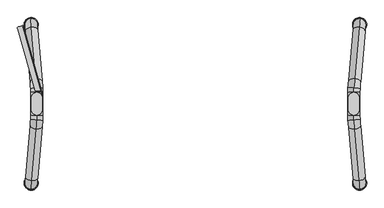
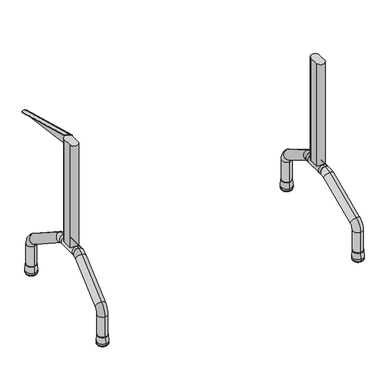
"""IFC4 building model written with IfcOpenShell, lengths in millimetres: furniture geometry, Mesa para refeitório : Mesa para refeitório 120x60cm cód 70469.6."""

from ifc_helpers import new_model, si_unit, point, frame, frame_2d, origin, place, context, project, spatial, polyline, circle_curve, ellipse_curve, trimmed, segment, composite_curve, outline, extrude, source, transform, mapped, element, save
from ifc_brep_helpers import plane_surface, cylinder_surface, revolved_surface, extruded_surface, advanced_brep


def furniture_bdeea453(model_context):
    return source(origin(), model_context, "Body", "SolidModel", [
        advanced_brep(
        [(-519.4401581, 37.5, 255.0), (-519.4401581, -37.5, 255.0), (-519.4401581, -37.5, 295.0), (-519.4401581, 37.5, 295.0), (-520.0583573, -51.7441422, 295.0), (-520.0583573, -51.7441422, 255.0), (-520.0583573, 51.7441422, 295.0), (-520.0583573, 51.7441422, 255.0)],
        [
            (0, 1),
            (1, 2, ellipse_curve(frame((-519.4401581, -37.5, 275.0), z_axis=(0.0, 1.0, 0.0), x_axis=(0.0, 0.0, -1.0)), 20.0, 19.923894)),
            (2, 3),
            (3, 0, ellipse_curve(frame((-519.4401581, 37.5, 275.0), z_axis=(0.0, -1.0, 0.0), x_axis=(0.0, 0.0, -1.0)), 20.0, 19.923894)),
            (2, 1, ellipse_curve(frame((-519.4401581, -37.5, 275.0), z_axis=(0.0, 1.0, 0.0), x_axis=(0.0, 0.0, -1.0)), 20.0, 19.923894)),
            (0, 3, ellipse_curve(frame((-519.4401581, 37.5, 275.0), z_axis=(0.0, -1.0, 0.0), x_axis=(0.0, 0.0, -1.0)), 20.0, 19.923894)),
            (4, 5, ellipse_curve(frame((-520.0583573, -51.7441422, 275.0), z_axis=(-0.08663729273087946, -0.9962399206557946, 0.0), x_axis=(0.0, 0.0, -1.0)), 20.0, 19.923894)),
            (5, 4, ellipse_curve(frame((-520.0583573, -51.7441422, 275.0), z_axis=(-0.08663729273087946, -0.9962399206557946, 0.0), x_axis=(0.0, 0.0, -1.0)), 20.0, 19.923894)),
            (4, 2, circle_curve(frame((-683.8513695, -37.5, 295.0), z_axis=(0.0, 0.0, 1.0), x_axis=(1.0, 0.0, 0.0)), 164.4112114)),
            (1, 5, circle_curve(frame((-683.8513695, -37.5, 255.0), z_axis=(0.0, 0.0, -1.0), x_axis=(1.0, 0.0, 0.0)), 164.4112114)),
            (6, 7, ellipse_curve(frame((-520.0583573, 51.7441422, 275.0), z_axis=(-0.08663729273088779, 0.9962399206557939, 0.0), x_axis=(0.0, 0.0, -1.0)), 20.0, 19.923894)),
            (7, 6, ellipse_curve(frame((-520.0583573, 51.7441422, 275.0), z_axis=(-0.08663729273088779, 0.9962399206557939, 0.0), x_axis=(0.0, 0.0, -1.0)), 20.0, 19.923894)),
            (3, 6, circle_curve(frame((-683.8513695, 37.5, 295.0), z_axis=(0.0, 0.0, 1.0), x_axis=(0.996239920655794, 0.08663729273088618, 0.0)), 164.4112114)),
            (7, 0, circle_curve(frame((-683.8513695, 37.5, 255.0), z_axis=(0.0, 0.0, -1.0), x_axis=(0.996239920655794, 0.08663729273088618, 0.0)), 164.4112114)),
        ],
        [
            extruded_surface(trimmed(ellipse_curve(frame((-519.4401581, 37.5, 275.0), z_axis=(0.0, -1.0, 0.0), x_axis=(0.0, 0.0, -1.0)), 20.0, 19.923894), [point((-519.4401581, 37.5, 295.0))], [point((-519.4401581, 37.5, 255.0))], True, "CARTESIAN"), (0.0, -75.0, 0.0), 75.0),
            extruded_surface(trimmed(ellipse_curve(frame((-519.4401581, 37.5, 275.0), z_axis=(0.0, -1.0, 0.0), x_axis=(0.0, 0.0, -1.0)), 20.0, 19.923894), [point((-519.4401581, 37.5, 255.0))], [point((-519.4401581, 37.5, 295.0))], True, "CARTESIAN"), (0.0, -75.0, 0.0), 75.0),
            plane_surface(frame((-520.0583573, -51.7441422, 0.0), z_axis=(-0.08663729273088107, -0.9962399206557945, 0.0), x_axis=(0.0, 0.0, 1.0))),
            revolved_surface(trimmed(ellipse_curve(frame((-519.4401581, -37.5, 275.0), z_axis=(0.0, -1.0, 0.0), x_axis=(0.0, 0.0, -1.0)), 20.0, 19.923894), [point((-519.4401581, -37.5, 295.0))], [point((-519.4401581, -37.5, 255.0))], True, "CARTESIAN"), (-683.8513695, -37.5, 0.0), (0.0, 0.0, 1.0)),
            revolved_surface(trimmed(ellipse_curve(frame((-519.4401581, -37.5, 275.0), z_axis=(0.0, -1.0, 0.0), x_axis=(0.0, 0.0, -1.0)), 20.0, 19.923894), [point((-519.4401581, -37.5, 255.0))], [point((-519.4401581, -37.5, 295.0))], True, "CARTESIAN"), (-683.8513695, -37.5, 0.0), (0.0, 0.0, 1.0)),
            plane_surface(frame((-520.0583573, 51.7441422, 0.0), z_axis=(-0.08663729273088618, 0.996239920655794, 0.0), x_axis=(0.0, 0.0, 1.0))),
            revolved_surface(trimmed(ellipse_curve(frame((-520.0583573, 51.7441422, 275.0), z_axis=(0.08663729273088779, -0.9962399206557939, 0.0), x_axis=(0.0, 0.0, -1.0)), 20.0, 19.923894), [point((-520.0583573, 51.7441422, 295.0))], [point((-520.0583573, 51.7441422, 255.0))], True, "CARTESIAN"), (-683.8513695, 37.5, 0.0), (0.0, 0.0, 1.0)),
            revolved_surface(trimmed(ellipse_curve(frame((-520.0583573, 51.7441422, 275.0), z_axis=(0.08663729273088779, -0.9962399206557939, 0.0), x_axis=(0.0, 0.0, -1.0)), 20.0, 19.923894), [point((-520.0583573, 51.7441422, 255.0))], [point((-520.0583573, 51.7441422, 295.0))], True, "CARTESIAN"), (-683.8513695, 37.5, 0.0), (0.0, 0.0, 1.0)),
        ],
        [
            (0, [[1, 2, 3, 4]]),
            (1, [[-3, 5, -1, 6]]),
            (2, [[7, 8]]),
            (3, [[-7, 9, -2, 10]]),
            (4, [[-8, -10, -5, -9]]),
            (5, [[11, 12]]),
            (6, [[-4, 13, -12, 14]]),
            (7, [[-6, -14, -11, -13]]),
        ],
    ),
        advanced_brep(
        [(-539.9590188, 279.1314153, 43.1183008), (-536.4727891, 239.2836274, 43.1183008), (-539.9590188, 279.1314153, 130.5759348), (-536.4727891, 239.2836274, 130.5759348), (-537.4872272, 250.8787073, 181.5558347), (-522.822711, 83.2625212, 285.9798998), (-520.9843424, 62.2498719, 251.9932999), (-535.6488585, 229.866058, 147.5692348), (-520.0651581, 51.7435473, 295.0), (-520.0651581, 51.7435473, 255.0)],
        [
            (0, 1, circle_curve(frame((-538.215904, 259.2075213, 43.1183008), z_axis=(0.0, 0.0, -1.0), x_axis=(0.08715574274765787, -0.9961946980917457, 0.0)), 20.0)),
            (1, 0, circle_curve(frame((-538.215904, 259.2075213, 43.1183008), z_axis=(0.0, 0.0, -1.0), x_axis=(0.08715574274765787, -0.9961946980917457, 0.0)), 20.0)),
            (0, 2),
            (2, 3, circle_curve(frame((-538.215904, 259.2075213, 130.5759348), z_axis=(0.0, 0.0, -1.0), x_axis=(0.08715574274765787, -0.9961946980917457, 0.0)), 20.0)),
            (3, 1),
            (3, 2, circle_curve(frame((-538.215904, 259.2075213, 130.5759348), z_axis=(0.0, 0.0, -1.0), x_axis=(0.08715574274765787, -0.9961946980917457, 0.0)), 20.0)),
            (4, 5),
            (5, 6, circle_curve(frame((-521.9035267, 72.7561965, 268.9865999), z_axis=(-0.07405318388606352, 0.8464317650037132, -0.5273228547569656), x_axis=(0.04595921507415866, -0.5253162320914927, -0.8496649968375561)), 20.0)),
            (6, 7),
            (7, 4, circle_curve(frame((-536.5680429, 240.3723827, 164.5625347), z_axis=(0.07405318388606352, -0.8464317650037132, 0.5273228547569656), x_axis=(0.04595921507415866, -0.5253162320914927, -0.8496649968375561)), 20.0)),
            (6, 5, circle_curve(frame((-521.9035267, 72.7561965, 268.9865999), z_axis=(-0.07405318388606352, 0.8464317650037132, -0.5273228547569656), x_axis=(0.04595921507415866, -0.5253162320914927, -0.8496649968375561)), 20.0)),
            (4, 7, circle_curve(frame((-536.5680429, 240.3723827, 164.5625347), z_axis=(0.07405318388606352, -0.8464317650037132, 0.5273228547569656), x_axis=(0.04595921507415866, -0.5253162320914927, -0.8496649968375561)), 20.0)),
            (7, 3, circle_curve(frame((-534.7296742, 219.3597334, 130.5759348), z_axis=(-0.9961946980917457, -0.08715574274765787, 0.0), x_axis=(-0.08715574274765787, 0.9961946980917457, 0.0)), 20.0)),
            (2, 4, circle_curve(frame((-534.7296742, 219.3597334, 130.5759348), z_axis=(0.9961946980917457, 0.08715574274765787, 0.0), x_axis=(-0.08715574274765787, 0.9961946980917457, 0.0)), 60.0)),
            (8, 9, circle_curve(frame((-520.0651581, 51.7435473, 275.0), z_axis=(0.08715574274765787, -0.9961946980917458, 0.0), x_axis=(0.0, 0.0, -1.0)), 20.0)),
            (9, 8, circle_curve(frame((-520.0651581, 51.7435473, 275.0), z_axis=(0.08715574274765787, -0.9961946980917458, 0.0), x_axis=(0.0, 0.0, -1.0)), 20.0)),
            (9, 6, circle_curve(frame((-520.0651581, 51.7435473, 235.0), z_axis=(-0.9961946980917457, -0.08715574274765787, 0.0), x_axis=(-0.045959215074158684, 0.5253162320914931, 0.8496649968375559)), 20.0)),
            (5, 8, circle_curve(frame((-520.0651581, 51.7435473, 235.0), z_axis=(0.9961946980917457, 0.08715574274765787, 0.0), x_axis=(-0.045959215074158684, 0.5253162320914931, 0.8496649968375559)), 60.0)),
        ],
        [
            plane_surface(frame((149.1584377, 319.3449838, 43.1183008), z_axis=(0.0, 0.0, -1.0000000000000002), x_axis=(-0.9961946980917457, -0.08715574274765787, 0.0))),
            cylinder_surface(frame((-538.215904, 259.2075213, 43.1183008), z_axis=(0.0, 0.0, -1.0000000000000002), x_axis=(0.08715574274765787, -0.9961946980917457, 0.0)), 20.0),
            cylinder_surface(frame((-536.5680429, 240.3723827, 164.5625347), z_axis=(-0.07405318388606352, 0.8464317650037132, -0.5273228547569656), x_axis=(0.04595921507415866, -0.5253162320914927, -0.8496649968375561)), 20.0),
            revolved_surface(trimmed(ellipse_curve(frame((-538.215904, 259.2075213, 130.5759348), z_axis=(0.0, 0.0, 1.0000000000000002), x_axis=(0.08715574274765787, -0.9961946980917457, 0.0)), 20.0, 20.0), [point((-536.4727891, 239.2836274, 130.5759348))], [point((-539.9590188, 279.1314153, 130.5759348))], True, "CARTESIAN"), (152.6446674, 279.4971959, 130.5759348), (-0.9961946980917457, -0.08715574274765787, 0.0)),
            revolved_surface(trimmed(ellipse_curve(frame((-538.215904, 259.2075213, 130.5759348), z_axis=(0.0, 0.0, 1.0000000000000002), x_axis=(0.08715574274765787, -0.9961946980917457, 0.0)), 20.0, 20.0), [point((-539.9590188, 279.1314153, 130.5759348))], [point((-536.4727891, 239.2836274, 130.5759348))], True, "CARTESIAN"), (152.6446674, 279.4971959, 130.5759348), (-0.9961946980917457, -0.08715574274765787, 0.0)),
            plane_surface(frame((167.3091835, 111.8810098, 275.0), z_axis=(0.08715574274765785, -0.9961946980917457, 0.0), x_axis=(-0.9961946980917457, -0.08715574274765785, 0.0))),
            revolved_surface(trimmed(ellipse_curve(frame((-521.9035267, 72.7561965, 268.9865999), z_axis=(0.07405318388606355, -0.8464317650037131, 0.527322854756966), x_axis=(0.04595921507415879, -0.5253162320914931, -0.8496649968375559)), 20.0, 20.0), [point((-520.9843424, 62.2498719, 251.9932999))], [point((-522.822711, 83.2625212, 285.9798998))], True, "CARTESIAN"), (167.3091835, 111.8810098, 235.0), (-0.9961946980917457, -0.08715574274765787, 0.0)),
            revolved_surface(trimmed(ellipse_curve(frame((-521.9035267, 72.7561965, 268.9865999), z_axis=(0.07405318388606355, -0.8464317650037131, 0.527322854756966), x_axis=(0.04595921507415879, -0.5253162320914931, -0.8496649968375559)), 20.0, 20.0), [point((-522.822711, 83.2625212, 285.9798998))], [point((-520.9843424, 62.2498719, 251.9932999))], True, "CARTESIAN"), (167.3091835, 111.8810098, 235.0), (-0.9961946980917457, -0.08715574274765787, 0.0)),
        ],
        [
            (0, [[1, 2]]),
            (1, [[3, 4, 5, -1]]),
            (1, [[-5, 6, -3, -2]]),
            (2, [[7, 8, 9, 10]]),
            (2, [[-9, 11, -7, 12]]),
            (3, [[-10, 13, -4, 14]]),
            (4, [[-12, -14, -6, -13]]),
            (5, [[15, 16]]),
            (6, [[-16, 17, -8, 18]]),
            (7, [[-15, -18, -11, -17]]),
        ],
    ),
        advanced_brep(
        [(-536.4727891, -239.2836274, 43.1183008), (-539.9590188, -279.1314153, 43.1183008), (-539.9590188, -279.1314153, 130.5759348), (-536.4727891, -239.2836274, 130.5759348), (-537.4872272, -250.8787073, 181.5558347), (-522.822711, -83.2625212, 285.9798998), (-520.9843424, -62.2498719, 251.9932999), (-535.6488585, -229.866058, 147.5692348), (-520.0651581, -51.7435473, 255.0), (-520.0651581, -51.7435473, 295.0)],
        [
            (0, 1, circle_curve(frame((-538.215904, -259.2075213, 43.1183008), z_axis=(0.0, 0.0, -1.0), x_axis=(-0.08715574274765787, -0.9961946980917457, 0.0)), 20.0)),
            (1, 0, circle_curve(frame((-538.215904, -259.2075213, 43.1183008), z_axis=(0.0, 0.0, -1.0), x_axis=(-0.08715574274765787, -0.9961946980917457, 0.0)), 20.0)),
            (1, 2),
            (2, 3, circle_curve(frame((-538.215904, -259.2075213, 130.5759348), z_axis=(0.0, 0.0, -1.0), x_axis=(-0.08715574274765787, -0.9961946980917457, 0.0)), 20.0)),
            (3, 0),
            (3, 2, circle_curve(frame((-538.215904, -259.2075213, 130.5759348), z_axis=(0.0, 0.0, -1.0), x_axis=(-0.08715574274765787, -0.9961946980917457, 0.0)), 20.0)),
            (4, 5),
            (5, 6, circle_curve(frame((-521.9035267, -72.7561965, 268.9865999), z_axis=(-0.07405318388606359, -0.8464317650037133, -0.5273228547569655), x_axis=(-0.04595921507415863, -0.5253162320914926, 0.8496649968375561)), 20.0)),
            (6, 7),
            (7, 4, circle_curve(frame((-536.5680429, -240.3723827, 164.5625347), z_axis=(0.07405318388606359, 0.8464317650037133, 0.5273228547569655), x_axis=(-0.04595921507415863, -0.5253162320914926, 0.8496649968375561)), 20.0)),
            (6, 5, circle_curve(frame((-521.9035267, -72.7561965, 268.9865999), z_axis=(-0.07405318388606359, -0.8464317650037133, -0.5273228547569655), x_axis=(-0.04595921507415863, -0.5253162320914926, 0.8496649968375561)), 20.0)),
            (4, 7, circle_curve(frame((-536.5680429, -240.3723827, 164.5625347), z_axis=(0.07405318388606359, 0.8464317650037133, 0.5273228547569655), x_axis=(-0.04595921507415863, -0.5253162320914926, 0.8496649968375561)), 20.0)),
            (7, 3, circle_curve(frame((-534.7296742, -219.3597334, 130.5759348), z_axis=(0.9961946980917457, -0.08715574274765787, 0.0), x_axis=(-0.08715574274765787, -0.9961946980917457, 0.0)), 20.0)),
            (2, 4, circle_curve(frame((-534.7296742, -219.3597334, 130.5759348), z_axis=(-0.9961946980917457, 0.08715574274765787, 0.0), x_axis=(-0.08715574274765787, -0.9961946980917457, 0.0)), 60.0)),
            (8, 9, circle_curve(frame((-520.0651581, -51.7435473, 275.0), z_axis=(0.08715574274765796, 0.9961946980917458, 0.0), x_axis=(0.0, 0.0, 1.0)), 20.0)),
            (9, 8, circle_curve(frame((-520.0651581, -51.7435473, 275.0), z_axis=(0.08715574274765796, 0.9961946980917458, 0.0), x_axis=(0.0, 0.0, 1.0)), 20.0)),
            (8, 6, circle_curve(frame((-520.0651581, -51.7435473, 235.0), z_axis=(0.9961946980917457, -0.08715574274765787, 0.0), x_axis=(-0.045959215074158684, -0.5253162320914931, 0.8496649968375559)), 20.0)),
            (5, 9, circle_curve(frame((-520.0651581, -51.7435473, 235.0), z_axis=(-0.9961946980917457, 0.08715574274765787, 0.0), x_axis=(-0.045959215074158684, -0.5253162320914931, 0.8496649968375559)), 60.0)),
        ],
        [
            plane_surface(frame((149.1584377, -319.3449838, 43.1183008), z_axis=(0.0, 0.0, -1.0000000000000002), x_axis=(-0.9961946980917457, 0.08715574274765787, 0.0))),
            cylinder_surface(frame((-538.215904, -259.2075213, 43.1183008), z_axis=(0.0, 0.0, -1.0000000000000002), x_axis=(-0.08715574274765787, -0.9961946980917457, 0.0)), 20.0),
            cylinder_surface(frame((-536.5680429, -240.3723827, 164.5625347), z_axis=(-0.07405318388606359, -0.8464317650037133, -0.5273228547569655), x_axis=(-0.04595921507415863, -0.5253162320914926, 0.8496649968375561)), 20.0),
            revolved_surface(trimmed(ellipse_curve(frame((-538.215904, -259.2075213, 130.5759348), z_axis=(0.0, 0.0, 1.0000000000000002), x_axis=(-0.08715574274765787, -0.9961946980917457, 0.0)), 20.0, 20.0), [point((-536.4727891, -239.2836274, 130.5759348))], [point((-539.9590188, -279.1314153, 130.5759348))], True, "CARTESIAN"), (152.6446674, -279.4971959, 130.5759348), (0.9961946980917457, -0.08715574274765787, 0.0)),
            revolved_surface(trimmed(ellipse_curve(frame((-538.215904, -259.2075213, 130.5759348), z_axis=(0.0, 0.0, 1.0000000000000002), x_axis=(-0.08715574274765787, -0.9961946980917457, 0.0)), 20.0, 20.0), [point((-539.9590188, -279.1314153, 130.5759348))], [point((-536.4727891, -239.2836274, 130.5759348))], True, "CARTESIAN"), (152.6446674, -279.4971959, 130.5759348), (0.9961946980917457, -0.08715574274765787, 0.0)),
            plane_surface(frame((167.3091835, -111.8810098, 275.0), z_axis=(0.0871557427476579, 0.9961946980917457, 0.0), x_axis=(-0.9961946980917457, 0.0871557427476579, 0.0))),
            revolved_surface(trimmed(ellipse_curve(frame((-521.9035267, -72.7561965, 268.9865999), z_axis=(0.07405318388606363, 0.8464317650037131, 0.527322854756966), x_axis=(-0.04595921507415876, -0.5253162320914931, 0.8496649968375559)), 20.0, 20.0), [point((-520.9843424, -62.2498719, 251.9932999))], [point((-522.822711, -83.2625212, 285.9798998))], True, "CARTESIAN"), (167.3091835, -111.8810098, 235.0), (0.9961946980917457, -0.08715574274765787, 0.0)),
            revolved_surface(trimmed(ellipse_curve(frame((-521.9035267, -72.7561965, 268.9865999), z_axis=(0.07405318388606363, 0.8464317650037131, 0.527322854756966), x_axis=(-0.04595921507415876, -0.5253162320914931, 0.8496649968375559)), 20.0, 20.0), [point((-522.822711, -83.2625212, 285.9798998))], [point((-520.9843424, -62.2498719, 251.9932999))], True, "CARTESIAN"), (167.3091835, -111.8810098, 235.0), (0.9961946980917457, -0.08715574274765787, 0.0)),
        ],
        [
            (0, [[1, 2]]),
            (1, [[3, 4, 5, -2]]),
            (1, [[-5, 6, -3, -1]]),
            (2, [[7, 8, 9, 10]]),
            (2, [[-9, 11, -7, 12]]),
            (3, [[-10, 13, -4, 14]]),
            (4, [[-12, -14, -6, -13]]),
            (5, [[15, 16]]),
            (6, [[-15, 17, -8, 18]]),
            (7, [[-16, -18, -11, -17]]),
        ],
    ),
        extrude(outline(composite_curve([segment(polyline([(-537.5814475, -19.3376613), (-537.5814475, 19.4032698)]), True, "CONTINUOUS"), segment(trimmed(circle_curve(frame_2d((-519.5814475, 19.4032698)), 18.0), [point((-537.5814475, 19.4032698))], [point((-501.5814475, 19.4032698))], False, "CARTESIAN"), True, "CONTINUOUS"), segment(polyline([(-501.5814475, 19.4032698), (-501.5814475, -19.3376613)]), True, "CONTINUOUS"), segment(trimmed(circle_curve(frame_2d((-519.5814475, -19.3376613)), 18.0), [point((-501.5814475, -19.3376613))], [point((-537.5814475, -19.3376613))], False, "CARTESIAN"), True, "CONTINUOUS")], self_intersect=False)), frame((0.0, 0.0, 275.0), z_axis=(0.0, 0.0, 1.0), x_axis=(1.0, 0.0, 0.0)), (0.0, 0.0, 1.0), 467.0),
        advanced_brep(
        [(519.4401581, 37.5, 255.0), (519.4401581, 37.5, 295.0), (519.4401581, -37.5, 295.0), (519.4401581, -37.5, 255.0), (520.0583573, -51.7441422, 295.0), (520.0583573, -51.7441422, 255.0), (520.0583573, 51.7441422, 295.0), (520.0583573, 51.7441422, 255.0)],
        [
            (0, 1, ellipse_curve(frame((519.4401581, 37.5, 275.0), z_axis=(0.0, -1.0, 0.0), x_axis=(0.0, 0.0, -1.0)), 20.0, 19.923894)),
            (1, 2),
            (2, 3, ellipse_curve(frame((519.4401581, -37.5, 275.0), z_axis=(0.0, 1.0, 0.0), x_axis=(0.0, 0.0, -1.0)), 20.0, 19.923894)),
            (3, 0),
            (1, 0, ellipse_curve(frame((519.4401581, 37.5, 275.0), z_axis=(0.0, -1.0, 0.0), x_axis=(0.0, 0.0, -1.0)), 20.0, 19.923894)),
            (3, 2, ellipse_curve(frame((519.4401581, -37.5, 275.0), z_axis=(0.0, 1.0, 0.0), x_axis=(0.0, 0.0, -1.0)), 20.0, 19.923894)),
            (4, 5, ellipse_curve(frame((520.0583573, -51.7441422, 275.0), z_axis=(0.08663729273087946, -0.9962399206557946, 0.0), x_axis=(0.0, 0.0, -1.0)), 20.0, 19.923894)),
            (5, 4, ellipse_curve(frame((520.0583573, -51.7441422, 275.0), z_axis=(0.08663729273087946, -0.9962399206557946, 0.0), x_axis=(0.0, 0.0, -1.0)), 20.0, 19.923894)),
            (5, 3, circle_curve(frame((683.8513695, -37.5, 255.0), z_axis=(0.0, 0.0, -1.0), x_axis=(-1.0, 0.0, 0.0)), 164.4112114)),
            (2, 4, circle_curve(frame((683.8513695, -37.5, 295.0), z_axis=(0.0, 0.0, 1.0), x_axis=(-1.0, 0.0, 0.0)), 164.4112114)),
            (6, 7, ellipse_curve(frame((520.0583573, 51.7441422, 275.0), z_axis=(0.08663729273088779, 0.9962399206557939, 0.0), x_axis=(0.0, 0.0, -1.0)), 20.0, 19.923894)),
            (7, 6, ellipse_curve(frame((520.0583573, 51.7441422, 275.0), z_axis=(0.08663729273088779, 0.9962399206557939, 0.0), x_axis=(0.0, 0.0, -1.0)), 20.0, 19.923894)),
            (0, 7, circle_curve(frame((683.8513695, 37.5, 255.0), z_axis=(0.0, 0.0, -1.0), x_axis=(-0.996239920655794, 0.08663729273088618, 0.0)), 164.4112114)),
            (6, 1, circle_curve(frame((683.8513695, 37.5, 295.0), z_axis=(0.0, 0.0, 1.0), x_axis=(-0.996239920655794, 0.08663729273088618, 0.0)), 164.4112114)),
        ],
        [
            extruded_surface(trimmed(ellipse_curve(frame((519.4401581, -37.5, 275.0), z_axis=(0.0, 1.0, 0.0), x_axis=(0.0, 0.0, -1.0)), 20.0, 19.923894), [point((519.4401581, -37.5, 295.0))], [point((519.4401581, -37.5, 255.0))], True, "CARTESIAN"), (0.0, 75.0, 0.0), 75.0),
            extruded_surface(trimmed(ellipse_curve(frame((519.4401581, -37.5, 275.0), z_axis=(0.0, 1.0, 0.0), x_axis=(0.0, 0.0, -1.0)), 20.0, 19.923894), [point((519.4401581, -37.5, 255.0))], [point((519.4401581, -37.5, 295.0))], True, "CARTESIAN"), (0.0, 75.0, 0.0), 75.0),
            plane_surface(frame((520.0583573, -51.7441422, 0.0), z_axis=(0.08663729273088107, -0.9962399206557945, 0.0), x_axis=(0.0, 0.0, 1.0))),
            revolved_surface(trimmed(ellipse_curve(frame((519.4401581, -37.5, 275.0), z_axis=(0.0, 1.0, 0.0), x_axis=(0.0, 0.0, -1.0)), 20.0, 19.923894), [point((519.4401581, -37.5, 295.0))], [point((519.4401581, -37.5, 255.0))], True, "CARTESIAN"), (683.8513695, -37.5, 0.0), (0.0, 0.0, 1.0)),
            revolved_surface(trimmed(ellipse_curve(frame((519.4401581, -37.5, 275.0), z_axis=(0.0, 1.0, 0.0), x_axis=(0.0, 0.0, -1.0)), 20.0, 19.923894), [point((519.4401581, -37.5, 255.0))], [point((519.4401581, -37.5, 295.0))], True, "CARTESIAN"), (683.8513695, -37.5, 0.0), (0.0, 0.0, 1.0)),
            plane_surface(frame((520.0583573, 51.7441422, 0.0), z_axis=(0.08663729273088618, 0.996239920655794, 0.0), x_axis=(0.0, 0.0, 1.0))),
            revolved_surface(trimmed(ellipse_curve(frame((520.0583573, 51.7441422, 275.0), z_axis=(0.08663729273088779, 0.9962399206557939, 0.0), x_axis=(0.0, 0.0, -1.0)), 20.0, 19.923894), [point((520.0583573, 51.7441422, 295.0))], [point((520.0583573, 51.7441422, 255.0))], True, "CARTESIAN"), (683.8513695, 37.5, 0.0), (0.0, 0.0, 1.0)),
            revolved_surface(trimmed(ellipse_curve(frame((520.0583573, 51.7441422, 275.0), z_axis=(0.08663729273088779, 0.9962399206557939, 0.0), x_axis=(0.0, 0.0, -1.0)), 20.0, 19.923894), [point((520.0583573, 51.7441422, 255.0))], [point((520.0583573, 51.7441422, 295.0))], True, "CARTESIAN"), (683.8513695, 37.5, 0.0), (0.0, 0.0, 1.0)),
        ],
        [
            (0, [[1, 2, 3, 4]]),
            (1, [[5, -4, 6, -2]]),
            (2, [[7, 8]]),
            (3, [[9, -3, 10, -8]]),
            (4, [[-10, -6, -9, -7]]),
            (5, [[11, 12]]),
            (6, [[13, -11, 14, -1]]),
            (7, [[-14, -12, -13, -5]]),
        ],
    ),
        advanced_brep(
        [(539.9590188, 279.1314153, 43.1183008), (536.4727891, 239.2836274, 43.1183008), (536.4727891, 239.2836274, 130.5759348), (539.9590188, 279.1314153, 130.5759348), (537.4872272, 250.8787073, 181.5558347), (535.6488585, 229.866058, 147.5692348), (520.9843424, 62.2498719, 251.9932999), (522.822711, 83.2625212, 285.9798998), (520.0651581, 51.7435473, 295.0), (520.0651581, 51.7435473, 255.0)],
        [
            (0, 1, circle_curve(frame((538.215904, 259.2075213, 43.1183008), z_axis=(0.0, 0.0, -1.0), x_axis=(-0.08715574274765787, -0.9961946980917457, 0.0)), 20.0)),
            (1, 0, circle_curve(frame((538.215904, 259.2075213, 43.1183008), z_axis=(0.0, 0.0, -1.0), x_axis=(-0.08715574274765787, -0.9961946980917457, 0.0)), 20.0)),
            (1, 2),
            (2, 3, circle_curve(frame((538.215904, 259.2075213, 130.5759348), z_axis=(0.0, 0.0, -1.0), x_axis=(-0.08715574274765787, -0.9961946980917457, 0.0)), 20.0)),
            (3, 0),
            (3, 2, circle_curve(frame((538.215904, 259.2075213, 130.5759348), z_axis=(0.0, 0.0, -1.0), x_axis=(-0.08715574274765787, -0.9961946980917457, 0.0)), 20.0)),
            (4, 5, circle_curve(frame((536.5680429, 240.3723827, 164.5625347), z_axis=(-0.07405318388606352, -0.8464317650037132, 0.5273228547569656), x_axis=(-0.04595921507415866, -0.5253162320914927, -0.8496649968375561)), 20.0)),
            (5, 6),
            (6, 7, circle_curve(frame((521.9035267, 72.7561965, 268.9865999), z_axis=(0.07405318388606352, 0.8464317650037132, -0.5273228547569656), x_axis=(-0.04595921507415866, -0.5253162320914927, -0.8496649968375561)), 20.0)),
            (7, 4),
            (5, 4, circle_curve(frame((536.5680429, 240.3723827, 164.5625347), z_axis=(-0.07405318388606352, -0.8464317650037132, 0.5273228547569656), x_axis=(-0.04595921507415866, -0.5253162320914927, -0.8496649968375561)), 20.0)),
            (7, 6, circle_curve(frame((521.9035267, 72.7561965, 268.9865999), z_axis=(0.07405318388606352, 0.8464317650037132, -0.5273228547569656), x_axis=(-0.04595921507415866, -0.5253162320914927, -0.8496649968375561)), 20.0)),
            (4, 3, circle_curve(frame((534.7296742, 219.3597334, 130.5759348), z_axis=(-0.9961946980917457, 0.08715574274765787, 0.0), x_axis=(0.08715574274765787, 0.9961946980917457, 0.0)), 60.0)),
            (2, 5, circle_curve(frame((534.7296742, 219.3597334, 130.5759348), z_axis=(0.9961946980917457, -0.08715574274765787, 0.0), x_axis=(0.08715574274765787, 0.9961946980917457, 0.0)), 20.0)),
            (8, 9, circle_curve(frame((520.0651581, 51.7435473, 275.0), z_axis=(-0.08715574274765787, -0.9961946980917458, 0.0), x_axis=(0.0, 0.0, -1.0)), 20.0)),
            (9, 8, circle_curve(frame((520.0651581, 51.7435473, 275.0), z_axis=(-0.08715574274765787, -0.9961946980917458, 0.0), x_axis=(0.0, 0.0, -1.0)), 20.0)),
            (8, 7, circle_curve(frame((520.0651581, 51.7435473, 235.0), z_axis=(-0.9961946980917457, 0.08715574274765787, 0.0), x_axis=(0.045959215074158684, 0.5253162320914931, 0.8496649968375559)), 60.0)),
            (6, 9, circle_curve(frame((520.0651581, 51.7435473, 235.0), z_axis=(0.9961946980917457, -0.08715574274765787, 0.0), x_axis=(0.045959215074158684, 0.5253162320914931, 0.8496649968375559)), 20.0)),
        ],
        [
            plane_surface(frame((-149.1584377, 319.3449838, 43.1183008), z_axis=(0.0, 0.0, -1.0000000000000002), x_axis=(0.9961946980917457, -0.08715574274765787, 0.0))),
            cylinder_surface(frame((538.215904, 259.2075213, 43.1183008), z_axis=(0.0, 0.0, -1.0000000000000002), x_axis=(-0.08715574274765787, -0.9961946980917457, 0.0)), 20.0),
            cylinder_surface(frame((536.5680429, 240.3723827, 164.5625347), z_axis=(0.07405318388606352, 0.8464317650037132, -0.5273228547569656), x_axis=(-0.04595921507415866, -0.5253162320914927, -0.8496649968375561)), 20.0),
            revolved_surface(trimmed(ellipse_curve(frame((538.215904, 259.2075213, 130.5759348), z_axis=(0.0, 0.0, -1.0000000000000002), x_axis=(-0.08715574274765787, -0.9961946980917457, 0.0)), 20.0, 20.0), [point((536.4727891, 239.2836274, 130.5759348))], [point((539.9590188, 279.1314153, 130.5759348))], True, "CARTESIAN"), (-152.6446674, 279.4971959, 130.5759348), (0.9961946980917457, -0.08715574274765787, 0.0)),
            revolved_surface(trimmed(ellipse_curve(frame((538.215904, 259.2075213, 130.5759348), z_axis=(0.0, 0.0, -1.0000000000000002), x_axis=(-0.08715574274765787, -0.9961946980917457, 0.0)), 20.0, 20.0), [point((539.9590188, 279.1314153, 130.5759348))], [point((536.4727891, 239.2836274, 130.5759348))], True, "CARTESIAN"), (-152.6446674, 279.4971959, 130.5759348), (0.9961946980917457, -0.08715574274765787, 0.0)),
            plane_surface(frame((-167.3091835, 111.8810098, 275.0), z_axis=(-0.08715574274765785, -0.9961946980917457, 0.0), x_axis=(0.9961946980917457, -0.08715574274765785, 0.0))),
            revolved_surface(trimmed(ellipse_curve(frame((521.9035267, 72.7561965, 268.9865999), z_axis=(0.07405318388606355, 0.8464317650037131, -0.527322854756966), x_axis=(-0.04595921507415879, -0.5253162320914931, -0.8496649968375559)), 20.0, 20.0), [point((520.9843424, 62.2498719, 251.9932999))], [point((522.822711, 83.2625212, 285.9798998))], True, "CARTESIAN"), (-167.3091835, 111.8810098, 235.0), (0.9961946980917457, -0.08715574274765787, 0.0)),
            revolved_surface(trimmed(ellipse_curve(frame((521.9035267, 72.7561965, 268.9865999), z_axis=(0.07405318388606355, 0.8464317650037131, -0.527322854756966), x_axis=(-0.04595921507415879, -0.5253162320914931, -0.8496649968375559)), 20.0, 20.0), [point((522.822711, 83.2625212, 285.9798998))], [point((520.9843424, 62.2498719, 251.9932999))], True, "CARTESIAN"), (-167.3091835, 111.8810098, 235.0), (0.9961946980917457, -0.08715574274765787, 0.0)),
        ],
        [
            (0, [[1, 2]]),
            (1, [[-2, 3, 4, 5]]),
            (1, [[-1, -5, 6, -3]]),
            (2, [[7, 8, 9, 10]]),
            (2, [[11, -10, 12, -8]]),
            (3, [[13, -4, 14, -7]]),
            (4, [[-14, -6, -13, -11]]),
            (5, [[15, 16]]),
            (6, [[17, -9, 18, -15]]),
            (7, [[-18, -12, -17, -16]]),
        ],
    ),
        advanced_brep(
        [(536.4727891, -239.2836274, 43.1183008), (539.9590188, -279.1314153, 43.1183008), (536.4727891, -239.2836274, 130.5759348), (539.9590188, -279.1314153, 130.5759348), (537.4872272, -250.8787073, 181.5558347), (535.6488585, -229.866058, 147.5692348), (520.9843424, -62.2498719, 251.9932999), (522.822711, -83.2625212, 285.9798998), (520.0651581, -51.7435473, 255.0), (520.0651581, -51.7435473, 295.0)],
        [
            (0, 1, circle_curve(frame((538.215904, -259.2075213, 43.1183008), z_axis=(0.0, 0.0, -1.0), x_axis=(0.08715574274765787, -0.9961946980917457, 0.0)), 20.0)),
            (1, 0, circle_curve(frame((538.215904, -259.2075213, 43.1183008), z_axis=(0.0, 0.0, -1.0), x_axis=(0.08715574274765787, -0.9961946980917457, 0.0)), 20.0)),
            (0, 2),
            (2, 3, circle_curve(frame((538.215904, -259.2075213, 130.5759348), z_axis=(0.0, 0.0, -1.0), x_axis=(0.08715574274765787, -0.9961946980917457, 0.0)), 20.0)),
            (3, 1),
            (3, 2, circle_curve(frame((538.215904, -259.2075213, 130.5759348), z_axis=(0.0, 0.0, -1.0), x_axis=(0.08715574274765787, -0.9961946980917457, 0.0)), 20.0)),
            (4, 5, circle_curve(frame((536.5680429, -240.3723827, 164.5625347), z_axis=(-0.07405318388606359, 0.8464317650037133, 0.5273228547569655), x_axis=(0.04595921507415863, -0.5253162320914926, 0.8496649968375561)), 20.0)),
            (5, 6),
            (6, 7, circle_curve(frame((521.9035267, -72.7561965, 268.9865999), z_axis=(0.07405318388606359, -0.8464317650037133, -0.5273228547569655), x_axis=(0.04595921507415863, -0.5253162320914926, 0.8496649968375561)), 20.0)),
            (7, 4),
            (5, 4, circle_curve(frame((536.5680429, -240.3723827, 164.5625347), z_axis=(-0.07405318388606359, 0.8464317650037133, 0.5273228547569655), x_axis=(0.04595921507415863, -0.5253162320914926, 0.8496649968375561)), 20.0)),
            (7, 6, circle_curve(frame((521.9035267, -72.7561965, 268.9865999), z_axis=(0.07405318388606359, -0.8464317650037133, -0.5273228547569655), x_axis=(0.04595921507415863, -0.5253162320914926, 0.8496649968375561)), 20.0)),
            (4, 3, circle_curve(frame((534.7296742, -219.3597334, 130.5759348), z_axis=(0.9961946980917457, 0.08715574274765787, 0.0), x_axis=(0.08715574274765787, -0.9961946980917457, 0.0)), 60.0)),
            (2, 5, circle_curve(frame((534.7296742, -219.3597334, 130.5759348), z_axis=(-0.9961946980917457, -0.08715574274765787, 0.0), x_axis=(0.08715574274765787, -0.9961946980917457, 0.0)), 20.0)),
            (8, 9, circle_curve(frame((520.0651581, -51.7435473, 275.0), z_axis=(-0.08715574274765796, 0.9961946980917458, 0.0), x_axis=(0.0, 0.0, 1.0)), 20.0)),
            (9, 8, circle_curve(frame((520.0651581, -51.7435473, 275.0), z_axis=(-0.08715574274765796, 0.9961946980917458, 0.0), x_axis=(0.0, 0.0, 1.0)), 20.0)),
            (9, 7, circle_curve(frame((520.0651581, -51.7435473, 235.0), z_axis=(0.9961946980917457, 0.08715574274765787, 0.0), x_axis=(0.045959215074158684, -0.5253162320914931, 0.8496649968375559)), 60.0)),
            (6, 8, circle_curve(frame((520.0651581, -51.7435473, 235.0), z_axis=(-0.9961946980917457, -0.08715574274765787, 0.0), x_axis=(0.045959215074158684, -0.5253162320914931, 0.8496649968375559)), 20.0)),
        ],
        [
            plane_surface(frame((-149.1584377, -319.3449838, 43.1183008), z_axis=(0.0, 0.0, -1.0000000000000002), x_axis=(0.9961946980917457, 0.08715574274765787, 0.0))),
            cylinder_surface(frame((538.215904, -259.2075213, 43.1183008), z_axis=(0.0, 0.0, -1.0000000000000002), x_axis=(0.08715574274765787, -0.9961946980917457, 0.0)), 20.0),
            cylinder_surface(frame((536.5680429, -240.3723827, 164.5625347), z_axis=(0.07405318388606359, -0.8464317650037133, -0.5273228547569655), x_axis=(0.04595921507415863, -0.5253162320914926, 0.8496649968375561)), 20.0),
            revolved_surface(trimmed(ellipse_curve(frame((538.215904, -259.2075213, 130.5759348), z_axis=(0.0, 0.0, -1.0000000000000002), x_axis=(0.08715574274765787, -0.9961946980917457, 0.0)), 20.0, 20.0), [point((536.4727891, -239.2836274, 130.5759348))], [point((539.9590188, -279.1314153, 130.5759348))], True, "CARTESIAN"), (-152.6446674, -279.4971959, 130.5759348), (-0.9961946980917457, -0.08715574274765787, 0.0)),
            revolved_surface(trimmed(ellipse_curve(frame((538.215904, -259.2075213, 130.5759348), z_axis=(0.0, 0.0, -1.0000000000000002), x_axis=(0.08715574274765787, -0.9961946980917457, 0.0)), 20.0, 20.0), [point((539.9590188, -279.1314153, 130.5759348))], [point((536.4727891, -239.2836274, 130.5759348))], True, "CARTESIAN"), (-152.6446674, -279.4971959, 130.5759348), (-0.9961946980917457, -0.08715574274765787, 0.0)),
            plane_surface(frame((-167.3091835, -111.8810098, 275.0), z_axis=(-0.0871557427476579, 0.9961946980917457, 0.0), x_axis=(0.9961946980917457, 0.0871557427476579, 0.0))),
            revolved_surface(trimmed(ellipse_curve(frame((521.9035267, -72.7561965, 268.9865999), z_axis=(0.07405318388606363, -0.8464317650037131, -0.527322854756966), x_axis=(0.04595921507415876, -0.5253162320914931, 0.8496649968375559)), 20.0, 20.0), [point((520.9843424, -62.2498719, 251.9932999))], [point((522.822711, -83.2625212, 285.9798998))], True, "CARTESIAN"), (-167.3091835, -111.8810098, 235.0), (-0.9961946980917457, -0.08715574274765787, 0.0)),
            revolved_surface(trimmed(ellipse_curve(frame((521.9035267, -72.7561965, 268.9865999), z_axis=(0.07405318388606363, -0.8464317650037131, -0.527322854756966), x_axis=(0.04595921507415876, -0.5253162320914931, 0.8496649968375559)), 20.0, 20.0), [point((522.822711, -83.2625212, 285.9798998))], [point((520.9843424, -62.2498719, 251.9932999))], True, "CARTESIAN"), (-167.3091835, -111.8810098, 235.0), (-0.9961946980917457, -0.08715574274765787, 0.0)),
        ],
        [
            (0, [[1, 2]]),
            (1, [[-1, 3, 4, 5]]),
            (1, [[-2, -5, 6, -3]]),
            (2, [[7, 8, 9, 10]]),
            (2, [[11, -10, 12, -8]]),
            (3, [[13, -4, 14, -7]]),
            (4, [[-14, -6, -13, -11]]),
            (5, [[15, 16]]),
            (6, [[17, -9, 18, -16]]),
            (7, [[-18, -12, -17, -15]]),
        ],
    ),
        extrude(outline(composite_curve([segment(trimmed(circle_curve(frame_2d((519.5814475, -19.3376613)), 18.0), [point((537.5814475, -19.3376613))], [point((501.5814475, -19.3376613))], False, "CARTESIAN"), True, "CONTINUOUS"), segment(polyline([(501.5814475, -19.3376613), (501.5814475, 19.4032698)]), True, "CONTINUOUS"), segment(trimmed(circle_curve(frame_2d((519.5814475, 19.4032698)), 18.0), [point((501.5814475, 19.4032698))], [point((537.5814475, 19.4032698))], False, "CARTESIAN"), True, "CONTINUOUS"), segment(polyline([(537.5814475, 19.4032698), (537.5814475, -19.3376613)]), True, "CONTINUOUS")], self_intersect=False)), frame((0.0, 0.0, 275.0), z_axis=(0.0, 0.0, 1.0), x_axis=(1.0, 0.0, 0.0)), (0.0, 0.0, 1.0), 467.0),
        advanced_brep(
        [(-538.215904, 280.5839249, 42.9792915), (-538.215904, 281.212521, 42.3931162), (-538.215904, 238.787479, 42.3931162), (-538.215904, 239.4160751, 42.9792915), (-538.215904, 283.125, 15.0433923), (-538.215904, 236.875, 15.0433923), (-538.215904, 283.125, 7.2213749), (-538.215904, 236.875, 7.2213749), (-538.215904, 276.0093092, 0.1056841), (-538.215904, 243.9906908, 0.1056841), (-538.215904, 260.0, 0.1056841), (-538.215904, 260.0, 42.9792915)],
        [
            (0, 1, circle_curve(frame((-538.215904, 280.5839249, 42.3491605), z_axis=(-1.0, 0.0, 0.0), x_axis=(0.0, -1.0, 0.0)), 0.630131)),
            (1, 2, circle_curve(frame((-538.215904, 260.0, 42.3931162), z_axis=(0.0, 0.0, 1.0), x_axis=(0.0, -1.0, 0.0)), 21.212521)),
            (2, 3, circle_curve(frame((-538.215904, 239.4160751, 42.3491605), z_axis=(-1.0, 0.0, 0.0), x_axis=(0.0, 1.0, 0.0)), 0.630131)),
            (3, 0, circle_curve(frame((-538.215904, 260.0, 42.9792915), z_axis=(0.0, 0.0, -1.0), x_axis=(0.0, -1.0, 0.0)), 20.5839249)),
            (2, 1, circle_curve(frame((-538.215904, 260.0, 42.3931162), z_axis=(0.0, 0.0, 1.0), x_axis=(0.0, -1.0, 0.0)), 21.212521)),
            (0, 3, circle_curve(frame((-538.215904, 260.0, 42.9792915), z_axis=(0.0, 0.0, -1.0), x_axis=(0.0, -1.0, 0.0)), 20.5839249)),
            (1, 4),
            (4, 5, circle_curve(frame((-538.215904, 260.0, 15.0433923), z_axis=(0.0, 0.0, 1.0), x_axis=(0.0, -1.0, 0.0)), 23.125)),
            (5, 2),
            (5, 4, circle_curve(frame((-538.215904, 260.0, 15.0433923), z_axis=(0.0, 0.0, 1.0), x_axis=(0.0, -1.0, 0.0)), 23.125)),
            (4, 6),
            (6, 7, circle_curve(frame((-538.215904, 260.0, 7.2213749), z_axis=(0.0, 0.0, 1.0), x_axis=(0.0, -1.0, 0.0)), 23.125)),
            (7, 5),
            (7, 6, circle_curve(frame((-538.215904, 260.0, 7.2213749), z_axis=(0.0, 0.0, 1.0), x_axis=(0.0, -1.0, 0.0)), 23.125)),
            (6, 8, circle_curve(frame((-538.215904, 276.0093092, 7.2213749), z_axis=(-1.0, 0.0, 0.0), x_axis=(0.0, -1.0, 0.0)), 7.1156908)),
            (8, 9, circle_curve(frame((-538.215904, 260.0, 0.1056841), z_axis=(0.0, 0.0, 1.0), x_axis=(0.0, -1.0, 0.0)), 16.0093092)),
            (9, 7, circle_curve(frame((-538.215904, 243.9906908, 7.2213749), z_axis=(-1.0, 0.0, 0.0), x_axis=(0.0, 1.0, 0.0)), 7.1156908)),
            (9, 8, circle_curve(frame((-538.215904, 260.0, 0.1056841), z_axis=(0.0, 0.0, 1.0), x_axis=(0.0, -1.0, 0.0)), 16.0093092)),
            (8, 10),
            (10, 9),
            (11, 0),
            (3, 11),
        ],
        [
            revolved_surface(trimmed(ellipse_curve(frame((-538.215904, 239.4160751, 42.3491605), z_axis=(-1.0, 0.0, 0.0), x_axis=(0.0, 1.0, 0.0)), 0.630131, 0.630131), [point((-538.215904, 238.787479, 42.3931162))], [point((-538.215904, 239.4160751, 42.9792915))], True, "CARTESIAN"), (-538.215904, 260.0, 0.1056841), (0.0, 0.0, 1.0)),
            revolved_surface(polyline([(-538.215904, 236.875, 15.0433923), (-538.215904, 238.787479, 42.3931162)]), (-538.215904, 260.0, 0.1056841), (0.0, 0.0, 1.0)),
            cylinder_surface(frame((-538.215904, 260.0, 0.1056841), z_axis=(0.0, 0.0, 1.0), x_axis=(0.0, -1.0, 0.0)), 23.125),
            revolved_surface(trimmed(ellipse_curve(frame((-538.215904, 243.9906908, 7.2213749), z_axis=(-1.0, 0.0, 0.0), x_axis=(0.0, 1.0, 0.0)), 7.1156908, 7.1156908), [point((-538.215904, 243.9906908, 0.1056841))], [point((-538.215904, 236.875, 7.2213749))], True, "CARTESIAN"), (-538.215904, 260.0, 0.1056841), (0.0, 0.0, 1.0)),
            plane_surface(frame((-538.215904, 260.0, 0.1056841), z_axis=(0.0, 0.0, -1.0), x_axis=(0.0, -1.0, 0.0))),
            plane_surface(frame((-538.215904, 260.0, 42.9792915), z_axis=(0.0, 0.0, 1.0), x_axis=(0.0, -1.0, 0.0))),
        ],
        [
            (0, [[1, 2, 3, 4]]),
            (0, [[-3, 5, -1, 6]]),
            (1, [[7, 8, 9, -2]]),
            (1, [[-9, 10, -7, -5]]),
            (2, [[11, 12, 13, -8]]),
            (2, [[-13, 14, -11, -10]]),
            (3, [[15, 16, 17, -12]]),
            (3, [[-17, 18, -15, -14]]),
            (4, [[19, 20, -16]]),
            (4, [[-20, -19, -18]]),
            (5, [[21, -4, 22]]),
            (5, [[-22, -6, -21]]),
        ],
    ),
        advanced_brep(
        [(-538.215904, -239.4160751, 42.9792915), (-538.215904, -238.787479, 42.3931162), (-538.215904, -281.212521, 42.3931162), (-538.215904, -280.5839249, 42.9792915), (-538.215904, -236.875, 15.0433923), (-538.215904, -283.125, 15.0433923), (-538.215904, -236.875, 7.2213749), (-538.215904, -283.125, 7.2213749), (-538.215904, -243.9906908, 0.1056841), (-538.215904, -276.0093092, 0.1056841), (-538.215904, -260.0, 0.1056841), (-538.215904, -260.0, 42.9792915)],
        [
            (0, 1, circle_curve(frame((-538.215904, -239.4160751, 42.3491605), z_axis=(-1.0, 0.0, 0.0), x_axis=(0.0, -1.0, 0.0)), 0.630131)),
            (1, 2, circle_curve(frame((-538.215904, -260.0, 42.3931162), z_axis=(0.0, 0.0, 1.0), x_axis=(0.0, -1.0, 0.0)), 21.212521)),
            (2, 3, circle_curve(frame((-538.215904, -280.5839249, 42.3491605), z_axis=(-1.0, 0.0, 0.0), x_axis=(0.0, 1.0, 0.0)), 0.630131)),
            (3, 0, circle_curve(frame((-538.215904, -260.0, 42.9792915), z_axis=(0.0, 0.0, -1.0), x_axis=(0.0, -1.0, 0.0)), 20.5839249)),
            (2, 1, circle_curve(frame((-538.215904, -260.0, 42.3931162), z_axis=(0.0, 0.0, 1.0), x_axis=(0.0, -1.0, 0.0)), 21.212521)),
            (0, 3, circle_curve(frame((-538.215904, -260.0, 42.9792915), z_axis=(0.0, 0.0, -1.0), x_axis=(0.0, -1.0, 0.0)), 20.5839249)),
            (1, 4),
            (4, 5, circle_curve(frame((-538.215904, -260.0, 15.0433923), z_axis=(0.0, 0.0, 1.0), x_axis=(0.0, -1.0, 0.0)), 23.125)),
            (5, 2),
            (5, 4, circle_curve(frame((-538.215904, -260.0, 15.0433923), z_axis=(0.0, 0.0, 1.0), x_axis=(0.0, -1.0, 0.0)), 23.125)),
            (4, 6),
            (6, 7, circle_curve(frame((-538.215904, -260.0, 7.2213749), z_axis=(0.0, 0.0, 1.0), x_axis=(0.0, -1.0, 0.0)), 23.125)),
            (7, 5),
            (7, 6, circle_curve(frame((-538.215904, -260.0, 7.2213749), z_axis=(0.0, 0.0, 1.0), x_axis=(0.0, -1.0, 0.0)), 23.125)),
            (6, 8, circle_curve(frame((-538.215904, -243.9906908, 7.2213749), z_axis=(-1.0, 0.0, 0.0), x_axis=(0.0, -1.0, 0.0)), 7.1156908)),
            (8, 9, circle_curve(frame((-538.215904, -260.0, 0.1056841), z_axis=(0.0, 0.0, 1.0), x_axis=(0.0, -1.0, 0.0)), 16.0093092)),
            (9, 7, circle_curve(frame((-538.215904, -276.0093092, 7.2213749), z_axis=(-1.0, 0.0, 0.0), x_axis=(0.0, 1.0, 0.0)), 7.1156908)),
            (9, 8, circle_curve(frame((-538.215904, -260.0, 0.1056841), z_axis=(0.0, 0.0, 1.0), x_axis=(0.0, -1.0, 0.0)), 16.0093092)),
            (8, 10),
            (10, 9),
            (11, 0),
            (3, 11),
        ],
        [
            revolved_surface(trimmed(ellipse_curve(frame((-538.215904, -280.5839249, 42.3491605), z_axis=(-1.0, 0.0, 0.0), x_axis=(0.0, 1.0, 0.0)), 0.630131, 0.630131), [point((-538.215904, -281.212521, 42.3931162))], [point((-538.215904, -280.5839249, 42.9792915))], True, "CARTESIAN"), (-538.215904, -260.0, 0.1056841), (0.0, 0.0, 1.0)),
            revolved_surface(polyline([(-538.215904, -283.125, 15.0433923), (-538.215904, -281.212521, 42.3931162)]), (-538.215904, -260.0, 0.1056841), (0.0, 0.0, 1.0)),
            cylinder_surface(frame((-538.215904, -260.0, 0.1056841), z_axis=(0.0, 0.0, 1.0), x_axis=(0.0, -1.0, 0.0)), 23.125),
            revolved_surface(trimmed(ellipse_curve(frame((-538.215904, -276.0093092, 7.2213749), z_axis=(-1.0, 0.0, 0.0), x_axis=(0.0, 1.0, 0.0)), 7.1156908, 7.1156908), [point((-538.215904, -276.0093092, 0.1056841))], [point((-538.215904, -283.125, 7.2213749))], True, "CARTESIAN"), (-538.215904, -260.0, 0.1056841), (0.0, 0.0, 1.0)),
            plane_surface(frame((-538.215904, -260.0, 0.1056841), z_axis=(0.0, 0.0, -1.0), x_axis=(0.0, -1.0, 0.0))),
            plane_surface(frame((-538.215904, -260.0, 42.9792915), z_axis=(0.0, 0.0, 1.0), x_axis=(0.0, -1.0, 0.0))),
        ],
        [
            (0, [[1, 2, 3, 4]]),
            (0, [[-3, 5, -1, 6]]),
            (1, [[7, 8, 9, -2]]),
            (1, [[-9, 10, -7, -5]]),
            (2, [[11, 12, 13, -8]]),
            (2, [[-13, 14, -11, -10]]),
            (3, [[15, 16, 17, -12]]),
            (3, [[-17, 18, -15, -14]]),
            (4, [[19, 20, -16]]),
            (4, [[-20, -19, -18]]),
            (5, [[21, -4, 22]]),
            (5, [[-22, -6, -21]]),
        ],
    ),
        advanced_brep(
        [(538.215904, 280.5839249, 42.9792915), (538.215904, 239.4160751, 42.9792915), (538.215904, 238.787479, 42.3931162), (538.215904, 281.212521, 42.3931162), (538.215904, 236.875, 15.0433923), (538.215904, 283.125, 15.0433923), (538.215904, 236.875, 7.2213749), (538.215904, 283.125, 7.2213749), (538.215904, 243.9906908, 0.1056841), (538.215904, 276.0093092, 0.1056841), (538.215904, 260.0, 0.1056841), (538.215904, 260.0, 42.9792915)],
        [
            (0, 1, circle_curve(frame((538.215904, 260.0, 42.9792915), z_axis=(0.0, 0.0, -1.0), x_axis=(0.0, -1.0, 0.0)), 20.5839249)),
            (1, 2, circle_curve(frame((538.215904, 239.4160751, 42.3491605), z_axis=(1.0, 0.0, 0.0), x_axis=(0.0, 1.0, 0.0)), 0.630131)),
            (2, 3, circle_curve(frame((538.215904, 260.0, 42.3931162), z_axis=(0.0, 0.0, 1.0), x_axis=(0.0, -1.0, 0.0)), 21.212521)),
            (3, 0, circle_curve(frame((538.215904, 280.5839249, 42.3491605), z_axis=(1.0, 0.0, 0.0), x_axis=(0.0, -1.0, 0.0)), 0.630131)),
            (1, 0, circle_curve(frame((538.215904, 260.0, 42.9792915), z_axis=(0.0, 0.0, -1.0), x_axis=(0.0, -1.0, 0.0)), 20.5839249)),
            (3, 2, circle_curve(frame((538.215904, 260.0, 42.3931162), z_axis=(0.0, 0.0, 1.0), x_axis=(0.0, -1.0, 0.0)), 21.212521)),
            (2, 4),
            (4, 5, circle_curve(frame((538.215904, 260.0, 15.0433923), z_axis=(0.0, 0.0, 1.0), x_axis=(0.0, -1.0, 0.0)), 23.125)),
            (5, 3),
            (5, 4, circle_curve(frame((538.215904, 260.0, 15.0433923), z_axis=(0.0, 0.0, 1.0), x_axis=(0.0, -1.0, 0.0)), 23.125)),
            (4, 6),
            (6, 7, circle_curve(frame((538.215904, 260.0, 7.2213749), z_axis=(0.0, 0.0, 1.0), x_axis=(0.0, -1.0, 0.0)), 23.125)),
            (7, 5),
            (7, 6, circle_curve(frame((538.215904, 260.0, 7.2213749), z_axis=(0.0, 0.0, 1.0), x_axis=(0.0, -1.0, 0.0)), 23.125)),
            (6, 8, circle_curve(frame((538.215904, 243.9906908, 7.2213749), z_axis=(1.0, 0.0, 0.0), x_axis=(0.0, 1.0, 0.0)), 7.1156908)),
            (8, 9, circle_curve(frame((538.215904, 260.0, 0.1056841), z_axis=(0.0, 0.0, 1.0), x_axis=(0.0, -1.0, 0.0)), 16.0093092)),
            (9, 7, circle_curve(frame((538.215904, 276.0093092, 7.2213749), z_axis=(1.0, 0.0, 0.0), x_axis=(0.0, -1.0, 0.0)), 7.1156908)),
            (9, 8, circle_curve(frame((538.215904, 260.0, 0.1056841), z_axis=(0.0, 0.0, 1.0), x_axis=(0.0, -1.0, 0.0)), 16.0093092)),
            (8, 10),
            (10, 9),
            (11, 1),
            (0, 11),
        ],
        [
            revolved_surface(trimmed(ellipse_curve(frame((538.215904, 239.4160751, 42.3491605), z_axis=(-1.0, 0.0, 0.0), x_axis=(0.0, 1.0, 0.0)), 0.630131, 0.630131), [point((538.215904, 238.787479, 42.3931162))], [point((538.215904, 239.4160751, 42.9792915))], True, "CARTESIAN"), (538.215904, 260.0, 0.1056841), (0.0, 0.0, 1.0)),
            revolved_surface(polyline([(538.215904, 236.875, 15.0433923), (538.215904, 238.787479, 42.3931162)]), (538.215904, 260.0, 0.1056841), (0.0, 0.0, 1.0)),
            cylinder_surface(frame((538.215904, 260.0, 0.1056841), z_axis=(0.0, 0.0, 1.0), x_axis=(0.0, -1.0, 0.0)), 23.125),
            revolved_surface(trimmed(ellipse_curve(frame((538.215904, 243.9906908, 7.2213749), z_axis=(-1.0, 0.0, 0.0), x_axis=(0.0, 1.0, 0.0)), 7.1156908, 7.1156908), [point((538.215904, 243.9906908, 0.1056841))], [point((538.215904, 236.875, 7.2213749))], True, "CARTESIAN"), (538.215904, 260.0, 0.1056841), (0.0, 0.0, 1.0)),
            plane_surface(frame((538.215904, 260.0, 0.1056841), z_axis=(0.0, 0.0, -1.0), x_axis=(0.0, -1.0, 0.0))),
            plane_surface(frame((538.215904, 260.0, 42.9792915), z_axis=(0.0, 0.0, 1.0), x_axis=(0.0, -1.0, 0.0))),
        ],
        [
            (0, [[1, 2, 3, 4]]),
            (0, [[5, -4, 6, -2]]),
            (1, [[-3, 7, 8, 9]]),
            (1, [[-6, -9, 10, -7]]),
            (2, [[-8, 11, 12, 13]]),
            (2, [[-10, -13, 14, -11]]),
            (3, [[-12, 15, 16, 17]]),
            (3, [[-14, -17, 18, -15]]),
            (4, [[-16, 19, 20]]),
            (4, [[-18, -20, -19]]),
            (5, [[21, -1, 22]]),
            (5, [[-22, -5, -21]]),
        ],
    ),
        advanced_brep(
        [(538.215904, -239.4160751, 42.9792915), (538.215904, -280.5839249, 42.9792915), (538.215904, -281.212521, 42.3931162), (538.215904, -238.787479, 42.3931162), (538.215904, -283.125, 15.0433923), (538.215904, -236.875, 15.0433923), (538.215904, -283.125, 7.2213749), (538.215904, -236.875, 7.2213749), (538.215904, -276.0093092, 0.1056841), (538.215904, -243.9906908, 0.1056841), (538.215904, -260.0, 0.1056841), (538.215904, -260.0, 42.9792915)],
        [
            (0, 1, circle_curve(frame((538.215904, -260.0, 42.9792915), z_axis=(0.0, 0.0, -1.0), x_axis=(0.0, -1.0, 0.0)), 20.5839249)),
            (1, 2, circle_curve(frame((538.215904, -280.5839249, 42.3491605), z_axis=(1.0, 0.0, 0.0), x_axis=(0.0, 1.0, 0.0)), 0.630131)),
            (2, 3, circle_curve(frame((538.215904, -260.0, 42.3931162), z_axis=(0.0, 0.0, 1.0), x_axis=(0.0, -1.0, 0.0)), 21.212521)),
            (3, 0, circle_curve(frame((538.215904, -239.4160751, 42.3491605), z_axis=(1.0, 0.0, 0.0), x_axis=(0.0, -1.0, 0.0)), 0.630131)),
            (1, 0, circle_curve(frame((538.215904, -260.0, 42.9792915), z_axis=(0.0, 0.0, -1.0), x_axis=(0.0, -1.0, 0.0)), 20.5839249)),
            (3, 2, circle_curve(frame((538.215904, -260.0, 42.3931162), z_axis=(0.0, 0.0, 1.0), x_axis=(0.0, -1.0, 0.0)), 21.212521)),
            (2, 4),
            (4, 5, circle_curve(frame((538.215904, -260.0, 15.0433923), z_axis=(0.0, 0.0, 1.0), x_axis=(0.0, -1.0, 0.0)), 23.125)),
            (5, 3),
            (5, 4, circle_curve(frame((538.215904, -260.0, 15.0433923), z_axis=(0.0, 0.0, 1.0), x_axis=(0.0, -1.0, 0.0)), 23.125)),
            (4, 6),
            (6, 7, circle_curve(frame((538.215904, -260.0, 7.2213749), z_axis=(0.0, 0.0, 1.0), x_axis=(0.0, -1.0, 0.0)), 23.125)),
            (7, 5),
            (7, 6, circle_curve(frame((538.215904, -260.0, 7.2213749), z_axis=(0.0, 0.0, 1.0), x_axis=(0.0, -1.0, 0.0)), 23.125)),
            (6, 8, circle_curve(frame((538.215904, -276.0093092, 7.2213749), z_axis=(1.0, 0.0, 0.0), x_axis=(0.0, 1.0, 0.0)), 7.1156908)),
            (8, 9, circle_curve(frame((538.215904, -260.0, 0.1056841), z_axis=(0.0, 0.0, 1.0), x_axis=(0.0, -1.0, 0.0)), 16.0093092)),
            (9, 7, circle_curve(frame((538.215904, -243.9906908, 7.2213749), z_axis=(1.0, 0.0, 0.0), x_axis=(0.0, -1.0, 0.0)), 7.1156908)),
            (9, 8, circle_curve(frame((538.215904, -260.0, 0.1056841), z_axis=(0.0, 0.0, 1.0), x_axis=(0.0, -1.0, 0.0)), 16.0093092)),
            (8, 10),
            (10, 9),
            (11, 1),
            (0, 11),
        ],
        [
            revolved_surface(trimmed(ellipse_curve(frame((538.215904, -280.5839249, 42.3491605), z_axis=(-1.0, 0.0, 0.0), x_axis=(0.0, 1.0, 0.0)), 0.630131, 0.630131), [point((538.215904, -281.212521, 42.3931162))], [point((538.215904, -280.5839249, 42.9792915))], True, "CARTESIAN"), (538.215904, -260.0, 0.1056841), (0.0, 0.0, 1.0)),
            revolved_surface(polyline([(538.215904, -283.125, 15.0433923), (538.215904, -281.212521, 42.3931162)]), (538.215904, -260.0, 0.1056841), (0.0, 0.0, 1.0)),
            cylinder_surface(frame((538.215904, -260.0, 0.1056841), z_axis=(0.0, 0.0, 1.0), x_axis=(0.0, -1.0, 0.0)), 23.125),
            revolved_surface(trimmed(ellipse_curve(frame((538.215904, -276.0093092, 7.2213749), z_axis=(-1.0, 0.0, 0.0), x_axis=(0.0, 1.0, 0.0)), 7.1156908, 7.1156908), [point((538.215904, -276.0093092, 0.1056841))], [point((538.215904, -283.125, 7.2213749))], True, "CARTESIAN"), (538.215904, -260.0, 0.1056841), (0.0, 0.0, 1.0)),
            plane_surface(frame((538.215904, -260.0, 0.1056841), z_axis=(0.0, 0.0, -1.0), x_axis=(0.0, -1.0, 0.0))),
            plane_surface(frame((538.215904, -260.0, 42.9792915), z_axis=(0.0, 0.0, 1.0), x_axis=(0.0, -1.0, 0.0))),
        ],
        [
            (0, [[1, 2, 3, 4]]),
            (0, [[5, -4, 6, -2]]),
            (1, [[-3, 7, 8, 9]]),
            (1, [[-6, -9, 10, -7]]),
            (2, [[-8, 11, 12, 13]]),
            (2, [[-10, -13, 14, -11]]),
            (3, [[-12, 15, 16, 17]]),
            (3, [[-14, -17, 18, -15]]),
            (4, [[-16, 19, 20]]),
            (4, [[-18, -20, -19]]),
            (5, [[21, -1, 22]]),
            (5, [[-22, -5, -21]]),
        ],
    ),
        extrude(outline(composite_curve([segment(polyline([(0.0, 0.0), (-11.3499079, -59.0370689), (-236.7172151, -15.7100843)]), True, "CONTINUOUS"), segment(trimmed(circle_curve(frame_2d((-235.1976245, -7.8058636)), 8.0489664), [point((-236.7172151, -15.7100843))], [point((-237.1608757, 0.0))], False, "CARTESIAN"), True, "CONTINUOUS"), segment(polyline([(-237.1608757, 0.0), (0.0, 0.0)]), True, "CONTINUOUS")], self_intersect=False)), frame((-501.5529394, 28.1487461, 681.8818171), z_axis=(0.9612616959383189, 0.27563735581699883, 0.0), x_axis=(0.2706805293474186, -0.943975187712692, -0.1887932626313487)), (0.0, 0.0, 1.0), 1.932216),
        extrude(outline(composite_curve([segment(polyline([(-505.6618953, 42.5875081), (-524.3872851, 42.5875081), (-582.9451635, 246.803099)]), True, "CONTINUOUS"), segment(trimmed(circle_curve(frame_2d((-578.138855, 248.1812858)), 5.0), [point((-582.9451635, 246.803099))], [point((-579.5170418, 252.9875943))], False, "CARTESIAN"), True, "CONTINUOUS"), segment(polyline([(-579.5170418, 252.9875943), (-567.0206397, 256.5708799), (-505.6618953, 42.5875081)]), True, "CONTINUOUS")], self_intersect=False)), frame((0.0, 0.0, 740.0), z_axis=(0.0, 0.0, 1.0), x_axis=(1.0, 0.0, 0.0)), (0.0, 0.0, 1.0), 2.0),
    ])


if __name__ == "__main__":
    model = new_model("IFC4")
    model_context = context("Model", 3, world=origin())
    ifc_project = project(units=[si_unit("LENGTHUNIT", "METRE", prefix="MILLI")], contexts=[model_context])
    site = spatial("IfcSite", under=ifc_project)
    building = spatial("IfcBuilding", under=site)
    placement = place(None, origin())
    furniture_shape = furniture_bdeea453(model_context)
    element("IfcFurniture", 1, ObjectType="Mesa para refeitório : Mesa para refeitório 120x60cm cód 70469.6", at=placement, inside=building, context=model_context, shape_type="MappedRepresentation", body=[
        mapped(furniture_shape, transform((0.0, 0.0, 0.0), x_axis=(1.0, 0.0, 0.0), y_axis=(0.0, 1.0, 0.0), z_axis=(0.0, 0.0, 1.0))),
    ])
    save(model, "model.ifc")
